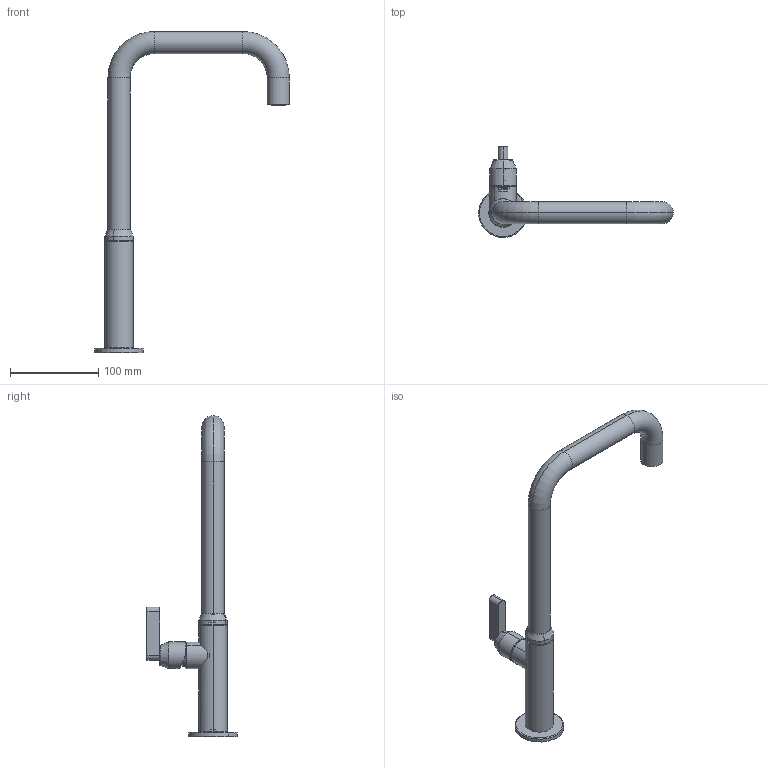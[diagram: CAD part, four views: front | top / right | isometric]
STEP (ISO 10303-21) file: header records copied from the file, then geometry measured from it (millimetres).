
FILE_DESCRIPTION (( 'STEP AP203' ), '1' );
FILE_NAME ('KOE6.STEP', '2025-02-07T09:46:58', ( '' ), ( '' ), 'SwSTEP 2.0', 'SolidWorks 2024', '' );
FILE_SCHEMA (( 'CONFIG_CONTROL_DESIGN' ));
Length unit declared in the file: millimetre
Products named in the file (24): C24.2042.00.0; C11.14.0009; C24.1893.00.1; C21.2390.00.0; C23.0824.01; C24.0119.00.2; C12.00.0062; C24.2075.00.0; C12.00.0004; C12.00.0052; C24.0120.00.1; C47.00.0023.01; C13.00.0065; C24.2047.00.0; C11.15.0006; C11.10.0025; KOE6; AS779_00; C24.2041.00.0; C24.2033.00.1; C24.0370.00.3; C11.14.0007; C19.11.0029.43; C10.00.0013
Assembly tree (24 placements, depth 3):
  KOE6
    C23.0824.01
    C24.1893.00.1
    C24.2042.00.0
    C13.00.0065
    C11.14.0007
    C19.11.0029.43
      C24.0370.00.3
      C24.2075.00.0
    C12.00.0004
    C12.00.0062  x2
    C24.2041.00.0
    C21.2390.00.0
    C10.00.0013
    C24.0119.00.2
    C24.0120.00.1
    AS779_00
      C24.2047.00.0
      C24.2033.00.1
      C11.10.0025
      C11.15.0006
    C47.00.0023.01
    C11.14.0009
    C12.00.0052
Bounding box: 220 x 102.51 x 362.92 mm (x, y, z)
Volume: 171946.8 mm3; surface area: 135817.7 mm2
Topology: 21 solids, 32 shells, 1264 faces, 3436 edges, 2222 vertices
Faces by surface type: cylinder 497, plane 419, cone 180, bspline 86, torus 80, sphere 2
Entity records: 47173 total; most frequent: CARTESIAN_POINT 14036, DIRECTION 6327, ORIENTED_EDGE 6284, EDGE_CURVE 3372, AXIS2_PLACEMENT_3D 2458, VERTEX_POINT 2206, LINE 1411, VECTOR 1411
